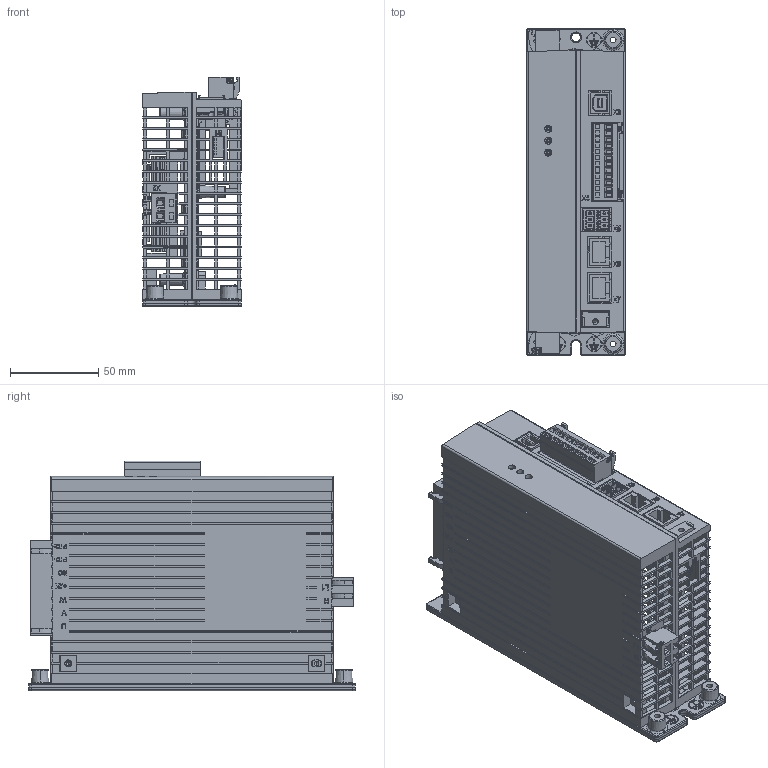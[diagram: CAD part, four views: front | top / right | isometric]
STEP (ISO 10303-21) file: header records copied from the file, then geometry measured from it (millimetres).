
FILE_DESCRIPTION (( 'STEP AP214' ), '1' );
FILE_NAME ('CDB22.004.STEP', '2011-10-18T05:24:37', ( 'Bereich' ), ( 'LTi DRiVES GmbH' ), 'SwSTEP 2.0', 'SolidWorks 2010', '' );
FILE_SCHEMA (( 'AUTOMOTIVE_DESIGN' ));
Length unit declared in the file: millimetre
Products named in the file (16): 1515.504.0; 1515.503.0; PC-Jack_SMD; USB-B_SMD; mcdn_1.5-3-g1-3.5-p14thr; 1515.507.0; 1515.506.0; BPA04SBR; CDB22.004; zec_1.0-12-st-3.5-c1-r1.12; zec_1.0-12-st-3.5-c1-r1.12_Default; 1515.502.0; mcdn_1.5-3-g1-3.5-p14thr_Default; SMD-LED; zec_1_5-7-st-7_5-c2-r1_7; zec_1_5-2-st-7_5-c2-r1_2
Assembly tree (18 placements, depth 3):
  CDB22.004
    BPA04SBR
    1515.507.0
    SMD-LED  x3
    PC-Jack_SMD  x2
    zec_1_5-7-st-7_5-c2-r1_7
    1515.503.0
    USB-B_SMD
    mcdn_1.5-3-g1-3.5-p14thr_Default
      mcdn_1.5-3-g1-3.5-p14thr
    1515.504.0
    zec_1.0-12-st-3.5-c1-r1.12_Default
      zec_1.0-12-st-3.5-c1-r1.12
    1515.502.0
    1515.506.0
    zec_1_5-2-st-7_5-c2-r1_2
Bounding box: 56 x 185 x 129.95 mm (x, y, z)
Volume: 200452.3 mm3; surface area: 177385.6 mm2
Topology: 16 solids, 16 shells, 6266 faces, 17514 edges, 11252 vertices
Faces by surface type: plane 4619, bspline 865, cylinder 588, cone 97, torus 85, sphere 12
Entity records: 257509 total; most frequent: CARTESIAN_POINT 84695, ORIENTED_EDGE 34562, DIRECTION 27456, EDGE_CURVE 17281, VECTOR 14034, LINE 14034, VERTEX_POINT 11116, EDGE_LOOP 6873
